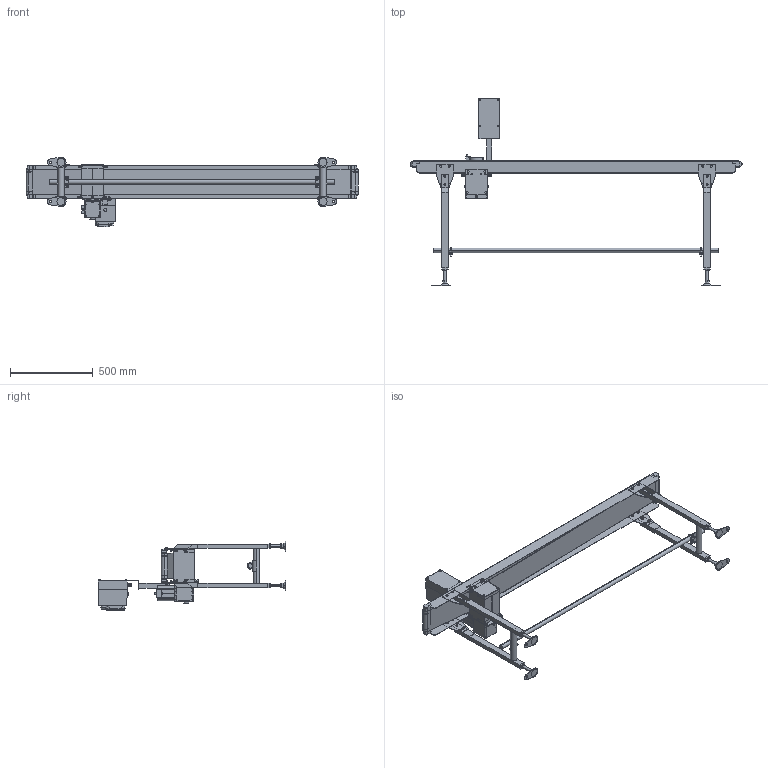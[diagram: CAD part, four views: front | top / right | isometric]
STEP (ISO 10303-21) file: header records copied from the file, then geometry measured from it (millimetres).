
FILE_DESCRIPTION (( 'STEP AP214' ), '1' );
FILE_NAME ('FSDHS-150-2000-R.STEP', '2023-04-20T23:33:43', ( '' ), ( '' ), 'SwSTEP 2.0', 'SolidWorks 2017', '' );
FILE_SCHEMA (( 'AUTOMOTIVE_DESIGN' ));
Length unit declared in the file: millimetre
Products named in the file (1): FSDHS-150-2000-R
Bounding box: 2001.4 x 1131 x 419.99 mm (x, y, z)
Volume: 15731313.1 mm3; surface area: 4210065 mm2
Topology: 48 solids, 54 shells, 2266 faces, 5572 edges, 3646 vertices
Faces by surface type: plane 1470, cylinder 733, cone 45, bspline 14, torus 4
Entity records: 94319 total; most frequent: CARTESIAN_POINT 13679, DIRECTION 11636, ORIENTED_EDGE 11124, EDGE_CURVE 5562, AXIS2_PLACEMENT_3D 3894, VECTOR 3848, LINE 3848, VERTEX_POINT 3646
